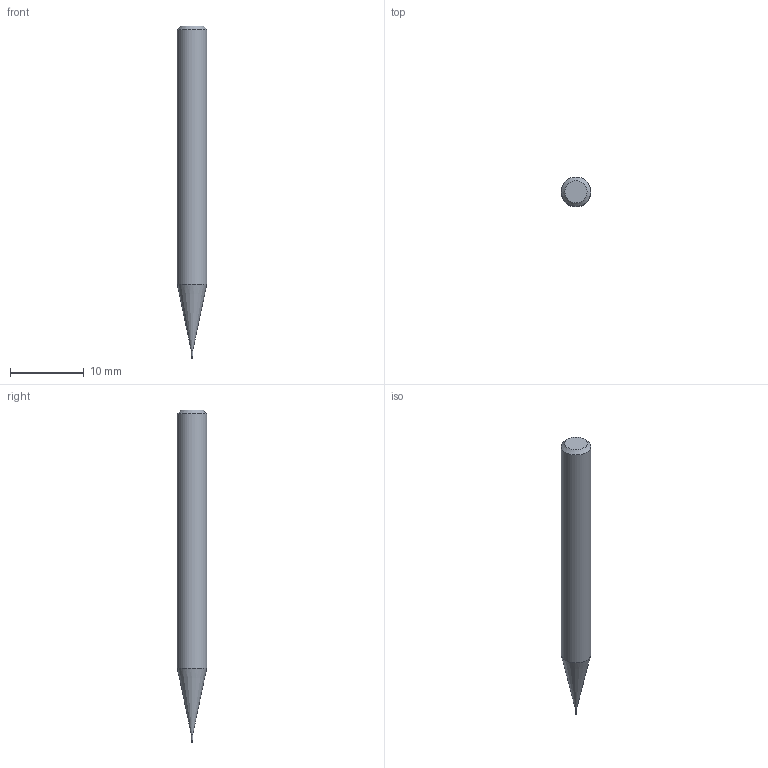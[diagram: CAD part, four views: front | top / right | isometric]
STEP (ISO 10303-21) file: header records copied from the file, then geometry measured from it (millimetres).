
FILE_DESCRIPTION((''),'2;1');
FILE_NAME('C:\Users\nsx150\AppData\Local\Temp\Mastercam 2021\3SYKECWX22\TEMP.step','2021-04-22T09:44:15',(''),(''),'STEP Write','Mastercam 2021 ... CNC Software, Inc.','');
FILE_SCHEMA(('AUTOMOTIVE_DESIGN'));
Length unit declared in the file: millimetre
Products named in the file (1): None
Bounding box: 4 x 4 x 45 mm (x, y, z)
Volume: 478 mm3; surface area: 509.5 mm2
Topology: 2 solids, 2 shells, 10 faces, 14 edges, 8 vertices
Faces by surface type: plane 4, cylinder 3, cone 2, torus 1
Full cylindrical faces by diameter (mm): 0.18 x1, 0.2 x1, 4 x1
Entity records: 232 total; most frequent: DIRECTION 40, CARTESIAN_POINT 28, AXIS2_PLACEMENT_3D 20, ORIENTED_EDGE 16, EDGE_LOOP 16, STYLED_ITEM 13, ADVANCED_FACE 10, FACE_BOUND 10
